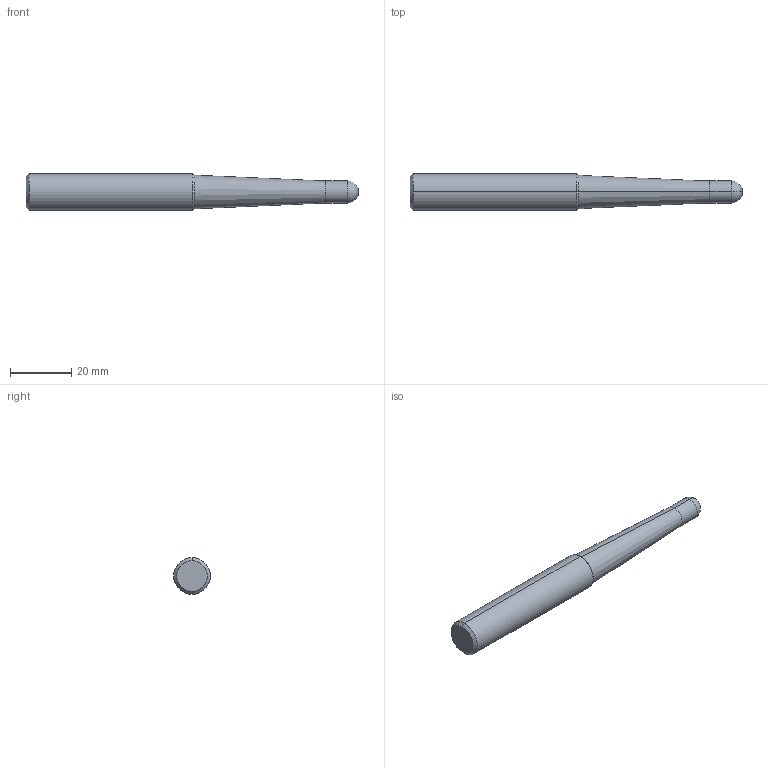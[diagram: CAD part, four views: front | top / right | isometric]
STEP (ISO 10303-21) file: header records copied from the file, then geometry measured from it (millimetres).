
FILE_DESCRIPTION (( 'STEP AP214' ), '1' );
FILE_NAME ('ZBT0802120.STEP', '2021-09-30T23:37:40', ( '' ), ( '' ), 'SwSTEP 2.0', 'SolidWorks 2018', '' );
FILE_SCHEMA (( 'AUTOMOTIVE_DESIGN' ));
Length unit declared in the file: millimetre
Products named in the file (1): ZBT0802120
Bounding box: 108.5 x 12 x 12 mm (x, y, z)
Volume: 9418.1 mm3; surface area: 3644.2 mm2
Topology: 1 solids, 1 shells, 14 faces, 26 edges, 14 vertices
Faces by surface type: cone 4, cylinder 4, torus 4, plane 2
Entity records: 382 total; most frequent: DIRECTION 74, CARTESIAN_POINT 55, ORIENTED_EDGE 52, AXIS2_PLACEMENT_3D 33, EDGE_CURVE 26, CIRCLE 18, ADVANCED_FACE 14, EDGE_LOOP 14
